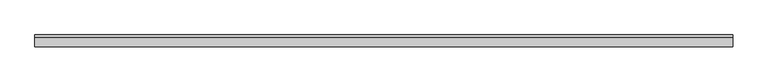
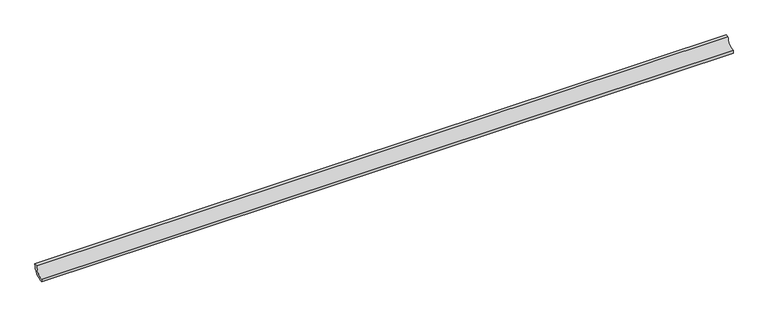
"""IFC4 building model written with IfcOpenShell, lengths in millimetres: proxy geometry, EXAGRES - Piscina Mediacaña1 : Publica_Azul_24.5x4cm."""

from ifc_helpers import new_model, si_unit, point, frame, frame_2d, origin, place, context, project, spatial, polyline, circle_curve, trimmed, segment, composite_curve, outline, extrude, source, transform, mapped, element, save


def generic_models_d2947595(model_context):
    return source(origin(), model_context, "Body", "SweptSolid", [
        extrude(outline(composite_curve([segment(trimmed(circle_curve(frame_2d((-26.0, 26.0)), 26.0), [point((-26.0, 0.0))], [point((0.0, 26.0))], True, "CARTESIAN"), True, "CONTINUOUS"), segment(polyline([(0.0, 26.0), (8.5, 26.0)]), True, "CONTINUOUS"), segment(trimmed(circle_curve(frame_2d((-26.0, 26.0)), 34.5), [point((8.5, 26.0))], [point((-26.0, -8.5))], False, "CARTESIAN"), True, "CONTINUOUS"), segment(polyline([(-26.0, -8.5), (-26.0, 0.0)]), True, "CONTINUOUS")], self_intersect=False)), frame((0.0, 0.0, 0.0), z_axis=(1.0, 0.0, 0.0), x_axis=(0.0, 1.0, 0.0)), (0.0, 0.0, 1.0), 2000.0),
    ])


if __name__ == "__main__":
    model = new_model("IFC4")
    model_context = context("Model", 3, world=origin())
    ifc_project = project(units=[si_unit("LENGTHUNIT", "METRE", prefix="MILLI")], contexts=[model_context])
    site = spatial("IfcSite", under=ifc_project)
    building = spatial("IfcBuilding", under=site)
    placement = place(None, origin())
    generic_models_shape = generic_models_d2947595(model_context)
    element("IfcBuildingElementProxy", 1, Name="EXAGRES - Piscina Mediacaña1 : Publica_Azul_24.5x4cm", ObjectType="EXAGRES - Piscina Mediacaña1 : Publica_Azul_24.5x4cm", at=placement, inside=building, context=model_context, shape_type="MappedRepresentation", body=[
        mapped(generic_models_shape, transform((0.0, 0.0, 0.0), x_axis=(1.0, 0.0, 0.0), y_axis=(0.0, 1.0, 0.0), z_axis=(0.0, 0.0, 1.0))),
    ])
    save(model, "model.ifc")
